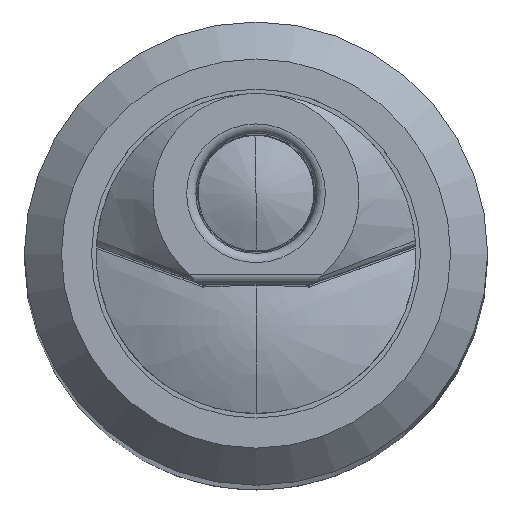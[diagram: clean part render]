
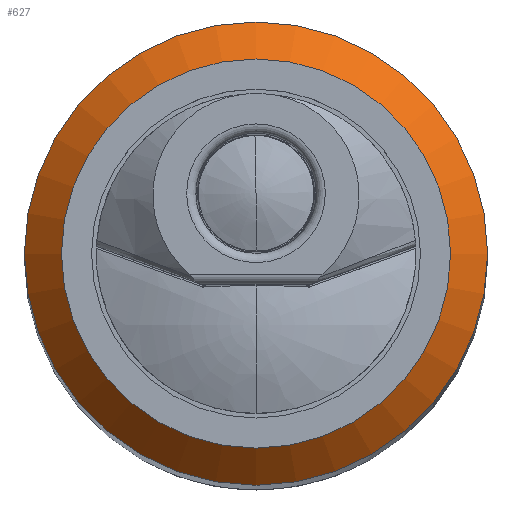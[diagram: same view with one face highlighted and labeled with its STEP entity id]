
A CAD part, top view. The second image highlights one B-rep face of the part: STEP entity #627.
In plain terms, the highlighted conical face has half-angle 45 degrees and reference radius 2.3 mm.
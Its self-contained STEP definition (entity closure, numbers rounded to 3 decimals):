
#24=CONICAL_SURFACE('',#698,2.3,0.785);
#56=FACE_OUTER_BOUND('',#98,.T.);
#98=EDGE_LOOP('',(#433,#434,#435,#436,#437,#438));
#143=CIRCLE('',#696,2.1);
#144=CIRCLE('',#697,2.1);
#145=CIRCLE('',#699,2.5);
#146=CIRCLE('',#700,2.5);
#205=LINE('',#1101,#231);
#231=VECTOR('',#796,2.3);
#271=VERTEX_POINT('',#1093);
#272=VERTEX_POINT('',#1094);
#273=VERTEX_POINT('',#1098);
#274=VERTEX_POINT('',#1099);
#335=EDGE_CURVE('',#271,#272,#143,.T.);
#336=EDGE_CURVE('',#272,#271,#144,.T.);
#337=EDGE_CURVE('',#273,#274,#145,.T.);
#338=EDGE_CURVE('',#274,#272,#205,.T.);
#339=EDGE_CURVE('',#274,#273,#146,.T.);
#433=ORIENTED_EDGE('',*,*,#337,.T.);
#434=ORIENTED_EDGE('',*,*,#338,.T.);
#435=ORIENTED_EDGE('',*,*,#336,.T.);
#436=ORIENTED_EDGE('',*,*,#335,.T.);
#437=ORIENTED_EDGE('',*,*,#338,.F.);
#438=ORIENTED_EDGE('',*,*,#339,.T.);
#627=ADVANCED_FACE('',(#56),#24,.T.);
#696=AXIS2_PLACEMENT_3D('',#1095,#788,#789);
#697=AXIS2_PLACEMENT_3D('',#1096,#790,#791);
#698=AXIS2_PLACEMENT_3D('',#1097,#792,#793);
#699=AXIS2_PLACEMENT_3D('',#1100,#794,#795);
#700=AXIS2_PLACEMENT_3D('',#1102,#797,#798);
#788=DIRECTION('center_axis',(0.,0.,-1.));
#789=DIRECTION('ref_axis',(-1.,0.,0.));
#790=DIRECTION('center_axis',(0.,0.,-1.));
#791=DIRECTION('ref_axis',(-1.,0.,0.));
#792=DIRECTION('center_axis',(0.,0.,-1.));
#793=DIRECTION('ref_axis',(-1.,0.,0.));
#794=DIRECTION('center_axis',(0.,0.,1.));
#795=DIRECTION('ref_axis',(1.,0.,0.));
#796=DIRECTION('',(-0.707,0.,0.707));
#797=DIRECTION('center_axis',(0.,0.,1.));
#798=DIRECTION('ref_axis',(1.,0.,0.));
#1093=CARTESIAN_POINT('',(-2.1,0.,-0.6));
#1094=CARTESIAN_POINT('',(2.1,0.,-0.6));
#1095=CARTESIAN_POINT('Origin',(0.,0.,-0.6));
#1096=CARTESIAN_POINT('Origin',(0.,0.,-0.6));
#1097=CARTESIAN_POINT('Origin',(0.,0.,-0.8));
#1098=CARTESIAN_POINT('',(-2.5,0.,-1.));
#1099=CARTESIAN_POINT('',(2.5,0.,-1.));
#1100=CARTESIAN_POINT('Origin',(0.,0.,-1.));
#1101=CARTESIAN_POINT('',(2.3,0.,-0.8));
#1102=CARTESIAN_POINT('Origin',(0.,0.,-1.));
